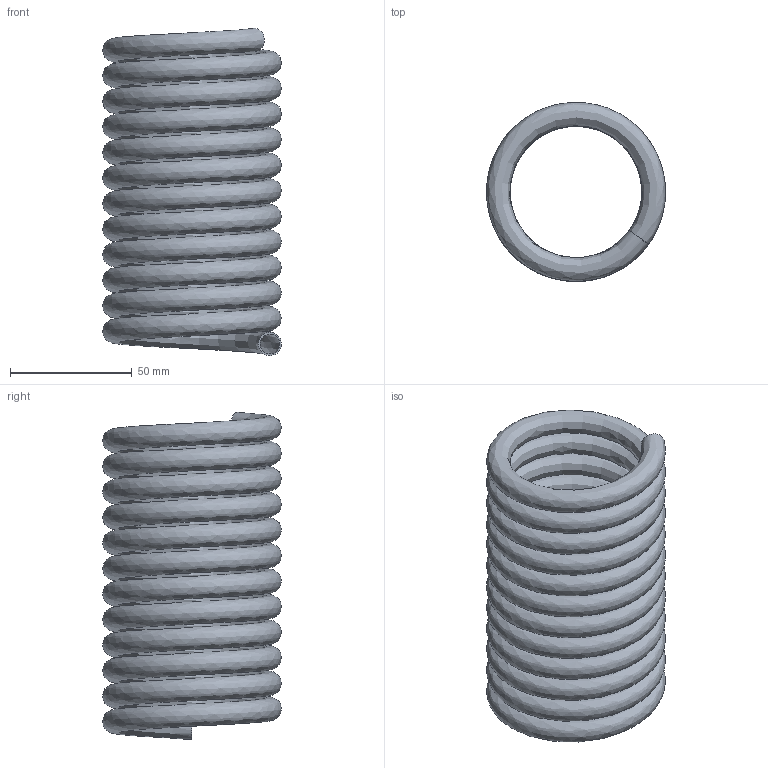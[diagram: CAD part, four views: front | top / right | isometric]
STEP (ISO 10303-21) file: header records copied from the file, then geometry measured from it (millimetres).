
FILE_DESCRIPTION(('Open CASCADE Model'),'2;1');
FILE_NAME('Open CASCADE Shape Model','2026-10-21T10:33:18',('Author'),( 'Open CASCADE'),'Open CASCADE STEP processor 7.9','Open CASCADE 7.9' ,'Unknown');
FILE_SCHEMA(('AUTOMOTIVE_DESIGN { 1 0 10303 214 1 1 1 1 }'));
Length unit declared in the file: millimetre
Products named in the file (1): Open CASCADE STEP translator 7.9 5
Bounding box: 73.53 x 73.53 x 134.47 mm (x, y, z)
Volume: 47071 mm3; surface area: 132724.6 mm2
Topology: 1 solids, 1 shells, 4 faces, 6 edges, 4 vertices
Faces by surface type: bspline 2, plane 2
Entity records: 2524 total; most frequent: CARTESIAN_POINT 2407, DIRECTION 14, ORIENTED_EDGE 12, PCURVE 12, DEFINITIONAL_REPRESENTATION 12, LINE 8, VECTOR 8, FACE_BOUND 6
